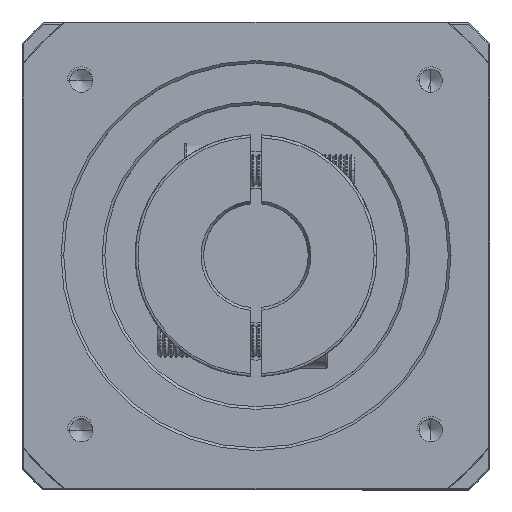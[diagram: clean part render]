
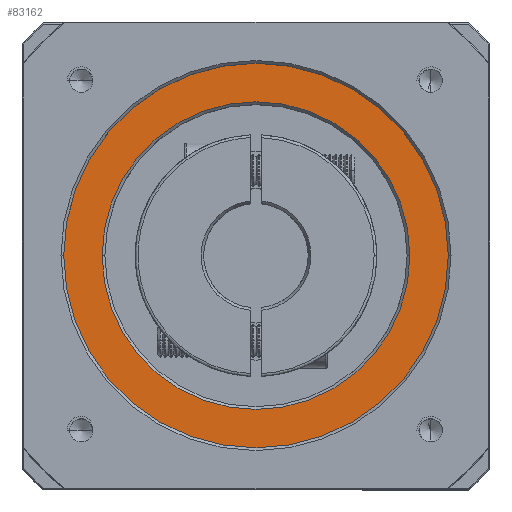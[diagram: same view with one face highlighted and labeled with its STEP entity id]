
A CAD part, top view. The second image highlights one B-rep face of the part: STEP entity #83162.
In plain terms, the highlighted planar face has unit normal (0, 0, 1).
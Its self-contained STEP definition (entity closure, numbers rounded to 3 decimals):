
#6240 = CARTESIAN_POINT ( 'NONE',  ( -87.737, 49.441, 19.814 ) ) ;
#8734 = EDGE_LOOP ( 'NONE', ( #84415, #31524 ) ) ;
#9387 = EDGE_CURVE ( 'NONE', #21284, #123931, #73916, .T. ) ;
#13930 = CARTESIAN_POINT ( 'NONE',  ( -24.737, 49.441, 19.814 ) ) ;
#14741 = CARTESIAN_POINT ( 'NONE',  ( -52.737, 49.441, 19.814 ) ) ;
#15134 = AXIS2_PLACEMENT_3D ( 'NONE', #14741, #84619, #26464 ) ;
#21284 = VERTEX_POINT ( 'NONE', #80829 ) ;
#26464 = DIRECTION ( 'NONE',  ( 1., 0., 0. ) ) ;
#30244 = DIRECTION ( 'NONE',  ( 1., 0., 0. ) ) ;
#31524 = ORIENTED_EDGE ( 'NONE', *, *, #125856, .T. ) ;
#33584 = DIRECTION ( 'NONE',  ( 0., 0., 1. ) ) ;
#34005 = DIRECTION ( 'NONE',  ( 1., 0., 0. ) ) ;
#34859 = CARTESIAN_POINT ( 'NONE',  ( -52.737, 49.441, 19.814 ) ) ;
#38714 = AXIS2_PLACEMENT_3D ( 'NONE', #50700, #80561, #30244 ) ;
#40969 = CIRCLE ( 'NONE', #81322, 28. ) ;
#46551 = VERTEX_POINT ( 'NONE', #127040 ) ;
#49773 = ORIENTED_EDGE ( 'NONE', *, *, #68560, .T. ) ;
#50377 = CIRCLE ( 'NONE', #55290, 35. ) ;
#50700 = CARTESIAN_POINT ( 'NONE',  ( -52.737, 49.441, 19.814 ) ) ;
#55290 = AXIS2_PLACEMENT_3D ( 'NONE', #34859, #33584, #34005 ) ;
#62331 = DIRECTION ( 'NONE',  ( 0., 0., -1. ) ) ;
#68560 = EDGE_CURVE ( 'NONE', #46551, #96808, #71738, .T. ) ;
#69835 = ORIENTED_EDGE ( 'NONE', *, *, #104987, .T. ) ;
#71738 = CIRCLE ( 'NONE', #113535, 28. ) ;
#73916 = CIRCLE ( 'NONE', #38714, 35. ) ;
#76279 = FACE_BOUND ( 'NONE', #115595, .T. ) ;
#80561 = DIRECTION ( 'NONE',  ( 0., 0., 1. ) ) ;
#80829 = CARTESIAN_POINT ( 'NONE',  ( -17.737, 49.441, 19.814 ) ) ;
#81322 = AXIS2_PLACEMENT_3D ( 'NONE', #83270, #112969, #93304 ) ;
#83162 = ADVANCED_FACE ( 'NONE', ( #109103, #76279 ), #85906, .T. ) ;
#83270 = CARTESIAN_POINT ( 'NONE',  ( -52.737, 49.441, 19.814 ) ) ;
#84415 = ORIENTED_EDGE ( 'NONE', *, *, #9387, .T. ) ;
#84619 = DIRECTION ( 'NONE',  ( 0., 0., 1. ) ) ;
#85906 = PLANE ( 'NONE',  #15134 ) ;
#91864 = CARTESIAN_POINT ( 'NONE',  ( -52.737, 49.441, 19.814 ) ) ;
#93304 = DIRECTION ( 'NONE',  ( 1., 0., 0. ) ) ;
#96808 = VERTEX_POINT ( 'NONE', #13930 ) ;
#104987 = EDGE_CURVE ( 'NONE', #96808, #46551, #40969, .T. ) ;
#109103 = FACE_OUTER_BOUND ( 'NONE', #8734, .T. ) ;
#111105 = DIRECTION ( 'NONE',  ( 1., 0., 0. ) ) ;
#112969 = DIRECTION ( 'NONE',  ( 0., 0., -1. ) ) ;
#113535 = AXIS2_PLACEMENT_3D ( 'NONE', #91864, #62331, #111105 ) ;
#115595 = EDGE_LOOP ( 'NONE', ( #69835, #49773 ) ) ;
#123931 = VERTEX_POINT ( 'NONE', #6240 ) ;
#125856 = EDGE_CURVE ( 'NONE', #123931, #21284, #50377, .T. ) ;
#127040 = CARTESIAN_POINT ( 'NONE',  ( -80.737, 49.441, 19.814 ) ) ;
